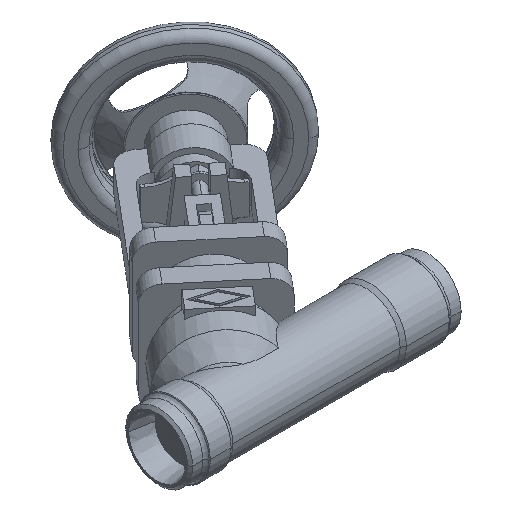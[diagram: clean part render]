
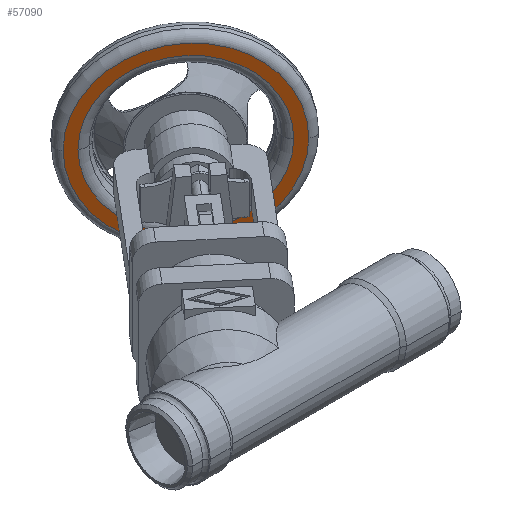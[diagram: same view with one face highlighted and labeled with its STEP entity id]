
A CAD part, isometric view. The second image highlights one B-rep face of the part: STEP entity #57090.
In plain terms, the highlighted planar face has unit normal (-0.643, -0.766, 0).
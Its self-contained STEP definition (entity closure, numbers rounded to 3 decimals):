
#56490=CARTESIAN_POINT('',(227.297,127.203,0.));
#56500=VERTEX_POINT('',#56490);
#56530=CARTESIAN_POINT('',(183.249,164.163,0.));
#56540=DIRECTION('',(0.643,0.766,0.));
#56550=DIRECTION('',(-0.766,0.643,
0.));
#56560=AXIS2_PLACEMENT_3D('',#56530,#56540,#56550);
#56570=CIRCLE('',#56560,57.5);
#56580=CARTESIAN_POINT('',(139.202,201.124,0.));
#56590=VERTEX_POINT('',#56580);
#56600=EDGE_CURVE('',#56590,#56500,#56570,.T.);
#56800=CARTESIAN_POINT('',(141.883,198.874,
0.));
#56810=DIRECTION('',(-0.643,-0.766,0.));
#56820=DIRECTION('',(0.766,-0.643,
0.));
#56830=AXIS2_PLACEMENT_3D('',#56800,#56810,#56820);
#56840=PLANE('',#56830);
#56850=CARTESIAN_POINT('',(183.249,164.163,-57.5));
#56860=VERTEX_POINT('',#56850);
#56870=EDGE_CURVE('',#56860,#56590,#56570,.T.);
#56880=ORIENTED_EDGE('',*,*,#56870,.F.);
#56890=ORIENTED_EDGE('',*,*,#56600,.F.);
#56900=EDGE_CURVE('',#56500,#56860,#56570,.T.);
#56910=ORIENTED_EDGE('',*,*,#56900,.F.);
#56920=EDGE_LOOP('',(#56910,#56890,#56880));
#56930=FACE_OUTER_BOUND('',#56920,.T.);
#56940=CARTESIAN_POINT('',(183.249,164.163,0.));
#56950=DIRECTION('',(0.643,0.766,0.));
#56960=DIRECTION('',(-0.766,0.643,
0.));
#56970=AXIS2_PLACEMENT_3D('',#56940,#56950,#56960);
#56980=CIRCLE('',#56970,50.5);
#56990=CARTESIAN_POINT('',(144.564,196.624,0.));
#57000=VERTEX_POINT('',#56990);
#57010=CARTESIAN_POINT('',(221.935,131.703,0.));
#57020=VERTEX_POINT('',#57010);
#57030=EDGE_CURVE('',#57000,#57020,#56980,.T.);
#57040=ORIENTED_EDGE('',*,*,#57030,.T.);
#57050=EDGE_CURVE('',#57020,#57000,#56980,.T.);
#57060=ORIENTED_EDGE('',*,*,#57050,.T.);
#57070=EDGE_LOOP('',(#57060,#57040));
#57080=FACE_BOUND('',#57070,.T.);
#57090=ADVANCED_FACE('',(#56930,#57080),#56840,.T.);
